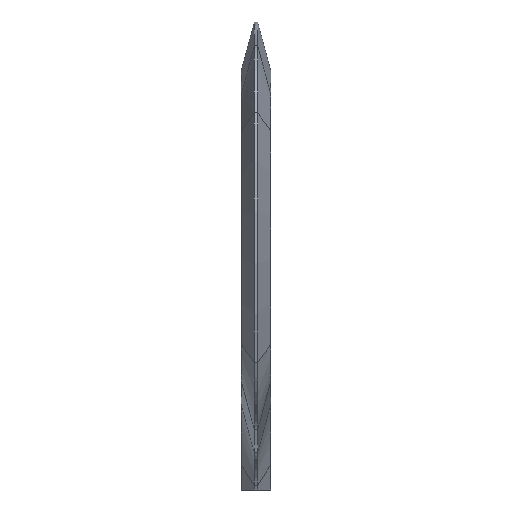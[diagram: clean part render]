
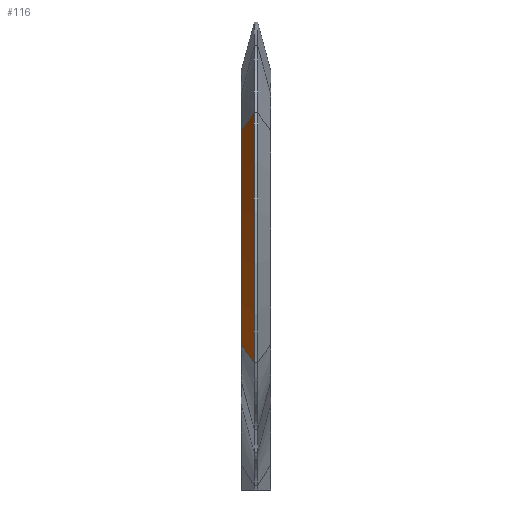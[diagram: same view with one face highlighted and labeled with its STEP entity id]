
A CAD part, left-side view. The second image highlights one B-rep face of the part: STEP entity #116.
In plain terms, the highlighted conical face has half-angle 75 degrees and reference radius 210.45 mm.
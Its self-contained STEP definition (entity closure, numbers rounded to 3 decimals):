
#11 = VECTOR ( 'NONE', #1069, 1000. ) ;
#73 = EDGE_CURVE ( 'NONE', #1123, #2336, #395, .T. ) ;
#116 = ADVANCED_FACE ( 'NONE', ( #843 ), #1166, .T. ) ;
#155 = DIRECTION ( 'NONE',  ( 0., 0., 1. ) ) ;
#243 = DIRECTION ( 'NONE',  ( 0., -1., 0. ) ) ;
#322 = CARTESIAN_POINT ( 'NONE',  ( -199.55, 18., 0. ) ) ;
#323 = LINE ( 'NONE', #2059, #11 ) ;
#324 = CARTESIAN_POINT ( 'NONE',  ( -199.55, 10., 0. ) ) ;
#364 = DIRECTION ( 'NONE',  ( 0., 0., -1. ) ) ;
#395 = CIRCLE ( 'NONE', #1466, 180.594 ) ;
#580 = VERTEX_POINT ( 'NONE', #1376 ) ;
#589 = VECTOR ( 'NONE', #1486, 1000. ) ;
#688 = DIRECTION ( 'NONE',  ( 0., 1., 0. ) ) ;
#810 = CARTESIAN_POINT ( 'NONE',  ( -395.531, 10., -76.685 ) ) ;
#843 = FACE_OUTER_BOUND ( 'NONE', #1189, .T. ) ;
#883 = ORIENTED_EDGE ( 'NONE', *, *, #1830, .F. ) ;
#932 = AXIS2_PLACEMENT_3D ( 'NONE', #1771, #243, #2064 ) ;
#1069 = DIRECTION ( 'NONE',  ( 0.9, 0.259, -0.352 ) ) ;
#1072 = DIRECTION ( 'NONE',  ( 0., -1., 0. ) ) ;
#1123 = VERTEX_POINT ( 'NONE', #1956 ) ;
#1159 = ORIENTED_EDGE ( 'NONE', *, *, #1724, .F. ) ;
#1166 = CONICAL_SURFACE ( 'NONE', #2299, 210.45, 1.309 ) ;
#1189 = EDGE_LOOP ( 'NONE', ( #1604, #1499, #1159, #883 ) ) ;
#1355 = CARTESIAN_POINT ( 'NONE',  ( -367.727, 18., 65.806 ) ) ;
#1376 = CARTESIAN_POINT ( 'NONE',  ( -395.531, 10., -76.685 ) ) ;
#1466 = AXIS2_PLACEMENT_3D ( 'NONE', #322, #688, #155 ) ;
#1486 = DIRECTION ( 'NONE',  ( 0.9, 0.259, 0.352 ) ) ;
#1499 = ORIENTED_EDGE ( 'NONE', *, *, #73, .F. ) ;
#1604 = ORIENTED_EDGE ( 'NONE', *, *, #1654, .T. ) ;
#1654 = EDGE_CURVE ( 'NONE', #1744, #2336, #323, .T. ) ;
#1724 = EDGE_CURVE ( 'NONE', #580, #1123, #1939, .T. ) ;
#1744 = VERTEX_POINT ( 'NONE', #2016 ) ;
#1771 = CARTESIAN_POINT ( 'NONE',  ( -199.55, 10., 0. ) ) ;
#1830 = EDGE_CURVE ( 'NONE', #1744, #580, #2317, .T. ) ;
#1939 = LINE ( 'NONE', #810, #589 ) ;
#1956 = CARTESIAN_POINT ( 'NONE',  ( -367.727, 18., -65.806 ) ) ;
#2016 = CARTESIAN_POINT ( 'NONE',  ( -395.531, 10., 76.685 ) ) ;
#2059 = CARTESIAN_POINT ( 'NONE',  ( -395.531, 10., 76.685 ) ) ;
#2064 = DIRECTION ( 'NONE',  ( 0., 0., 1. ) ) ;
#2299 = AXIS2_PLACEMENT_3D ( 'NONE', #324, #1072, #364 ) ;
#2317 = CIRCLE ( 'NONE', #932, 210.45 ) ;
#2336 = VERTEX_POINT ( 'NONE', #1355 ) ;
